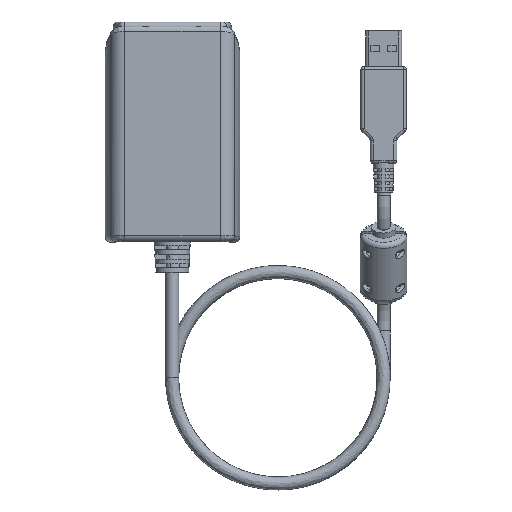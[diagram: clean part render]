
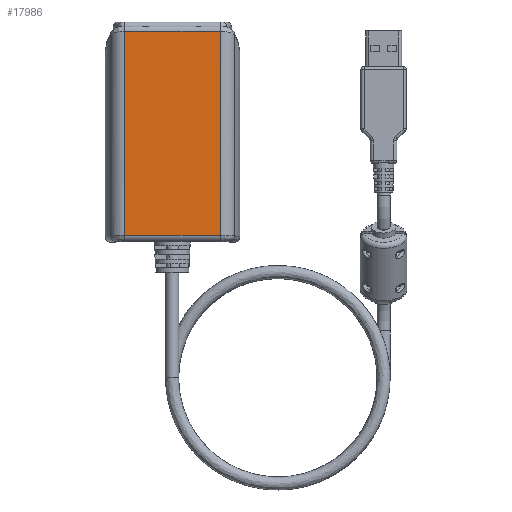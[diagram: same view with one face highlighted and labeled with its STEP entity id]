
A CAD part, front view. The second image highlights one B-rep face of the part: STEP entity #17986.
In plain terms, the highlighted planar face has unit normal (0, -1, 0).
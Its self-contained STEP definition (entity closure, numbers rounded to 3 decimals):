
#312=B_SPLINE_CURVE_WITH_KNOTS('',3,(#32531,#32532,#32533,#32534),
 .UNSPECIFIED.,.F.,.F.,(4,4),(-4.489,-1.329),
 .UNSPECIFIED.);
#1891=FACE_OUTER_BOUND('',#2953,.T.);
#2953=EDGE_LOOP('',(#13413,#13414,#13415,#13416));
#4292=LINE('',#32674,#5988);
#4293=LINE('',#32678,#5989);
#4294=LINE('',#32679,#5990);
#5988=VECTOR('',#22091,10.);
#5989=VECTOR('',#22096,10.);
#5990=VECTOR('',#22097,10.);
#7824=VERTEX_POINT('',#32462);
#7826=VERTEX_POINT('',#32521);
#7830=VERTEX_POINT('',#32673);
#7831=VERTEX_POINT('',#32677);
#9892=EDGE_CURVE('',#7826,#7824,#312,.T.);
#9901=EDGE_CURVE('',#7830,#7824,#4292,.T.);
#9903=EDGE_CURVE('',#7831,#7826,#4293,.T.);
#9904=EDGE_CURVE('',#7830,#7831,#4294,.T.);
#13413=ORIENTED_EDGE('',*,*,#9892,.F.);
#13414=ORIENTED_EDGE('',*,*,#9903,.F.);
#13415=ORIENTED_EDGE('',*,*,#9904,.F.);
#13416=ORIENTED_EDGE('',*,*,#9901,.T.);
#17229=PLANE('',#19258);
#17986=ADVANCED_FACE('',(#1891),#17229,.F.);
#19258=AXIS2_PLACEMENT_3D('',#32676,#22094,#22095);
#22091=DIRECTION('',(0.,0.,1.));
#22094=DIRECTION('center_axis',(0.,1.,0.));
#22095=DIRECTION('ref_axis',(0.,0.,1.));
#22096=DIRECTION('',(0.,0.,1.));
#22097=DIRECTION('',(-1.,0.,0.));
#32462=CARTESIAN_POINT('',(15.801,-12.25,-3.034));
#32521=CARTESIAN_POINT('',(-15.801,-12.25,-3.034));
#32531=CARTESIAN_POINT('Ctrl Pts',(-15.801,-12.25,-3.034));
#32532=CARTESIAN_POINT('Ctrl Pts',(-5.263,-12.25,-3.034));
#32533=CARTESIAN_POINT('Ctrl Pts',(5.263,-12.25,-3.034));
#32534=CARTESIAN_POINT('Ctrl Pts',(15.801,-12.25,-3.034));
#32673=CARTESIAN_POINT('',(15.801,-12.25,-70.641));
#32674=CARTESIAN_POINT('',(15.801,-12.25,0.));
#32676=CARTESIAN_POINT('Origin',(0.,-12.25,-36.5));
#32677=CARTESIAN_POINT('',(-15.801,-12.25,-70.641));
#32678=CARTESIAN_POINT('',(-15.801,-12.25,0.));
#32679=CARTESIAN_POINT('',(11.138,-12.25,-70.641));
